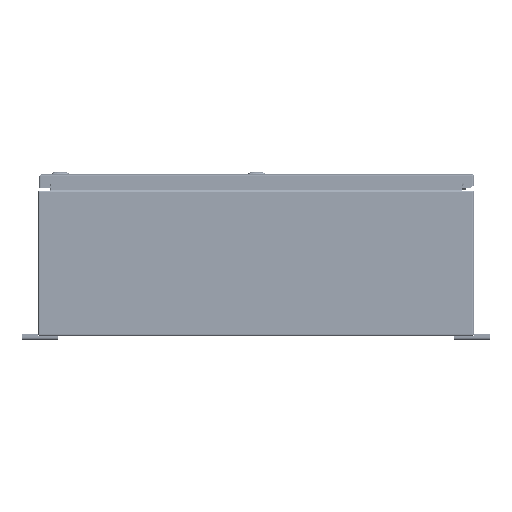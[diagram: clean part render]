
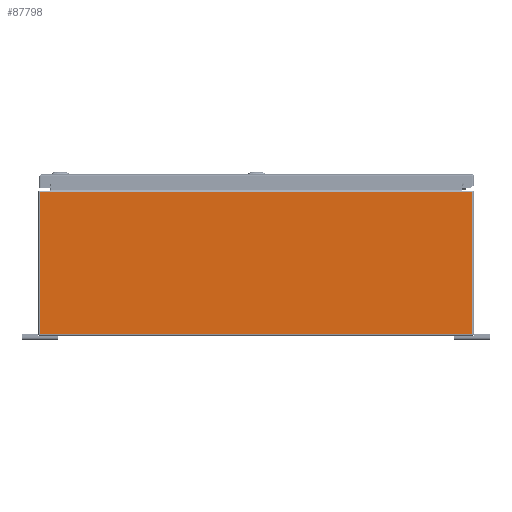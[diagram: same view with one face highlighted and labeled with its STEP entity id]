
A CAD part, left-side view. The second image highlights one B-rep face of the part: STEP entity #87798.
In plain terms, the highlighted planar face has unit normal (-1, 0, 0).
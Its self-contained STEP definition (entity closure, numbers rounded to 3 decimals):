
#5484=PLANE('',#94084);
#7638=LINE('',#123065,#14348);
#7639=LINE('',#123069,#14349);
#7640=LINE('',#123071,#14350);
#7641=LINE('',#123073,#14351);
#7642=LINE('',#123075,#14352);
#7643=LINE('',#123076,#14353);
#14348=VECTOR('',#101590,0.394);
#14349=VECTOR('',#101595,0.394);
#14350=VECTOR('',#101596,0.394);
#14351=VECTOR('',#101597,0.394);
#14352=VECTOR('',#101598,0.394);
#14353=VECTOR('',#101599,0.394);
#22417=FACE_OUTER_BOUND('',#27658,.T.);
#27658=EDGE_LOOP('',(#59159,#59160,#59161,#59162,#59163,#59164));
#36452=VERTEX_POINT('',#123047);
#36459=VERTEX_POINT('',#123064);
#36460=VERTEX_POINT('',#123068);
#36461=VERTEX_POINT('',#123070);
#36462=VERTEX_POINT('',#123072);
#36463=VERTEX_POINT('',#123074);
#45316=EDGE_CURVE('',#36452,#36459,#7638,.T.);
#45318=EDGE_CURVE('',#36460,#36452,#7639,.T.);
#45319=EDGE_CURVE('',#36460,#36461,#7640,.T.);
#45320=EDGE_CURVE('',#36462,#36461,#7641,.T.);
#45321=EDGE_CURVE('',#36463,#36462,#7642,.T.);
#45322=EDGE_CURVE('',#36463,#36459,#7643,.T.);
#59159=ORIENTED_EDGE('',*,*,#45318,.F.);
#59160=ORIENTED_EDGE('',*,*,#45319,.T.);
#59161=ORIENTED_EDGE('',*,*,#45320,.F.);
#59162=ORIENTED_EDGE('',*,*,#45321,.F.);
#59163=ORIENTED_EDGE('',*,*,#45322,.T.);
#59164=ORIENTED_EDGE('',*,*,#45316,.F.);
#87798=ADVANCED_FACE('',(#22417),#5484,.F.);
#94084=AXIS2_PLACEMENT_3D('',#123067,#101593,#101594);
#101590=DIRECTION('',(0.,0.,-1.));
#101593=DIRECTION('center_axis',(1.,0.,0.));
#101594=DIRECTION('ref_axis',(0.,0.,-1.));
#101595=DIRECTION('',(0.,-1.,0.));
#101596=DIRECTION('',(0.,1.,0.));
#101597=DIRECTION('',(0.,-1.,0.));
#101598=DIRECTION('',(0.,0.,1.));
#101599=DIRECTION('',(0.,-1.,0.));
#123047=CARTESIAN_POINT('',(-36.,-14.901,9.901));
#123064=CARTESIAN_POINT('',(-36.,-14.901,0.099));
#123065=CARTESIAN_POINT('',(-36.,-14.901,5.));
#123067=CARTESIAN_POINT('Origin',(-36.,0.,5.));
#123068=CARTESIAN_POINT('',(-36.,-14.126,9.901));
#123069=CARTESIAN_POINT('',(-36.,-7.475,9.901));
#123070=CARTESIAN_POINT('',(-36.,14.126,9.901));
#123071=CARTESIAN_POINT('',(-36.,7.455,9.901));
#123072=CARTESIAN_POINT('',(-36.,14.901,9.901));
#123073=CARTESIAN_POINT('',(-36.,-7.475,9.901));
#123074=CARTESIAN_POINT('',(-36.,14.901,0.099));
#123075=CARTESIAN_POINT('',(-36.,14.901,5.));
#123076=CARTESIAN_POINT('',(-36.,7.5,0.099));
